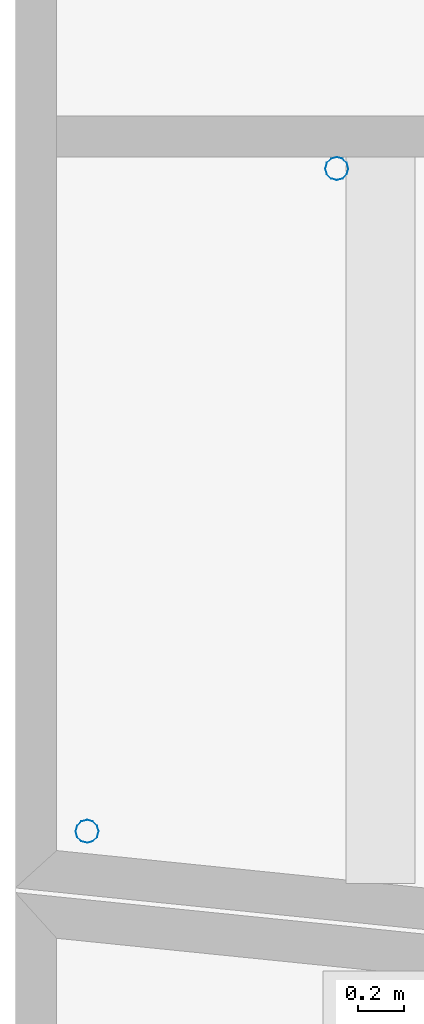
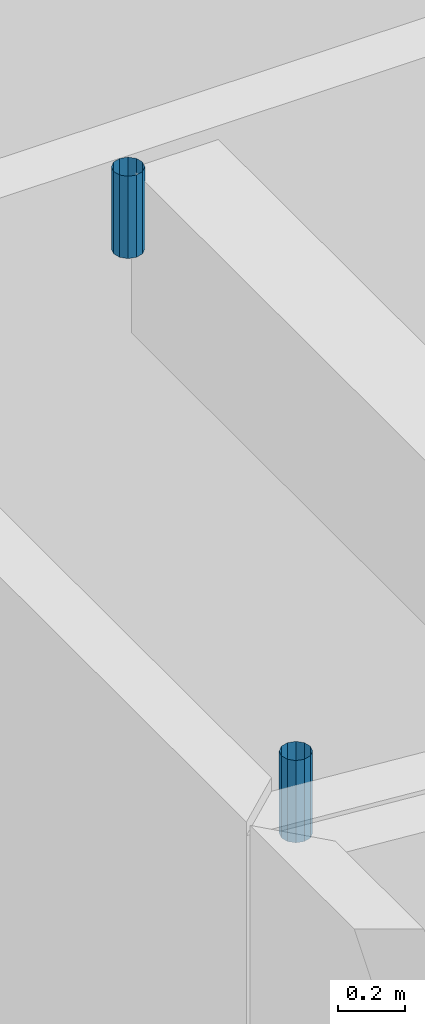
# One storey, part 26 of 41: 2 discrete accessories.
"""IFC2X3 building model written with IfcOpenShell, lengths in millimetres."""

from ifc_helpers import new_model, entity, si_unit, converted_unit, derived_unit, money_unit, direction, frame, origin_with_axes, place, context, subcontext, project, spatial, open_shell, surface_model, source, transform, mapped, type_object, element, save


model = new_model("IFC2X3")

# Units and contexts
model_context = context("Model", 3, precision=0.01, world=origin_with_axes(), true_north=direction((0.0, 1.0)))
body_context = subcontext(model_context, "Body", "Model", "MODEL_VIEW")
ifc_project = project(units=[si_unit("LENGTHUNIT", "METRE", prefix="MILLI"), si_unit("AREAUNIT", "SQUARE_METRE"), si_unit("VOLUMEUNIT", "CUBIC_METRE"), converted_unit("PLANEANGLEUNIT", "DEGREE", entity("IfcPlaneAngleMeasure", 0.0174532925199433), si_unit("PLANEANGLEUNIT", "RADIAN"), dimensions=[0, 0, 0, 0, 0, 0, 0]), money_unit("USD"), converted_unit("TIMEUNIT", "Year", entity("IfcTimeMeasure", 31557600.0), si_unit("TIMEUNIT", "SECOND"), dimensions=[0, 0, 1, 0, 0, 0, 0]), si_unit("MASSUNIT", "GRAM", prefix="KILO"), si_unit("THERMODYNAMICTEMPERATUREUNIT", "DEGREE_CELSIUS"), si_unit("LUMINOUSINTENSITYUNIT", "LUMEN"), si_unit("ENERGYUNIT", "JOULE", prefix="MEGA"), derived_unit("THERMALCONDUCTANCEUNIT", [(si_unit("POWERUNIT", "WATT"), 1), (si_unit("LENGTHUNIT", "METRE"), -1), (si_unit("THERMODYNAMICTEMPERATUREUNIT", "KELVIN"), -1)]), derived_unit("SPECIFICHEATCAPACITYUNIT", [(si_unit("ENERGYUNIT", "JOULE"), 1), (si_unit("MASSUNIT", "GRAM", prefix="KILO"), -1), (si_unit("THERMODYNAMICTEMPERATUREUNIT", "KELVIN"), -1)]), derived_unit("MASSDENSITYUNIT", [(si_unit("MASSUNIT", "GRAM", prefix="KILO"), 1), (si_unit("VOLUMEUNIT", "CUBIC_METRE"), -1)])], contexts=[model_context])

# Site, building, storey
site_placement = place(None, origin_with_axes())
site = spatial("IfcSite", under=ifc_project, at=site_placement, Name="Site", CompositionType="ELEMENT")
building_placement = place(site_placement, origin_with_axes())
building = spatial("IfcBuilding", under=site, at=building_placement, Name="Bâtiment", CompositionType="ELEMENT")
storey_placement = place(building_placement, origin_with_axes())
storey = spatial("IfcBuildingStorey", under=building, at=storey_placement, Name="sousol", CompositionType="ELEMENT", Elevation=0.0)

# Discrete accessories
discrete_accessory_type = type_object("IfcDiscreteAccessoryType", Name="Tuyau descente 27")
shared_shape_1 = source(origin_with_axes(), body_context, "Body", "SurfaceModel", [
    surface_model("IfcShellBasedSurfaceModel", [(-50.0, 0.0, 300.0), (-50.0, 0.0, 0.0), (-43.30127018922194, -25.0, 0.0), (-43.30127018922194, -25.0, 300.0), (-43.30127018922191, 25.00000000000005, 300.0), (-43.30127018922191, 25.00000000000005, 0.0), (-25.00000000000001, -43.30127018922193, 0.0), (-25.00000000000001, -43.30127018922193, 300.0), (-24.99999999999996, 43.30127018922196, 300.0), (-24.99999999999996, 43.30127018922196, 0.0), (0.0, -50.0, 0.0), (0.0, -50.0, 300.0), (0.0, 50.0, 300.0), (0.0, 50.0, 0.0), (24.99999999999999, -43.30127018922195, 0.0), (24.99999999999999, -43.30127018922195, 300.0), (25.00000000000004, 43.30127018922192, 300.0), (25.00000000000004, 43.30127018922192, 0.0), (43.30127018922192, -25.00000000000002, 0.0), (43.30127018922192, -25.00000000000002, 300.0), (43.30127018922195, 24.99999999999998, 300.0), (43.30127018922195, 24.99999999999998, 0.0), (50.0, 0.0, 0.0), (50.0, 0.0, 300.0)], [open_shell([[[0, 1, 2, 3]], [[4, 5, 1, 0]], [[3, 2, 6, 7]], [[8, 9, 5, 4]], [[7, 6, 10, 11]], [[12, 13, 9, 8]], [[11, 10, 14, 15]], [[16, 17, 13, 12]], [[15, 14, 18, 19]], [[20, 21, 17, 16]], [[19, 18, 22, 23]], [[23, 22, 21, 20]]])]),
])
discrete_accessory_1_placement = place(storey_placement, frame((2216947.023107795, -620443.1192585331, 2700.0), z_axis=(0.0, 0.0, 1.0), x_axis=(-1.0, 0.0, 0.0)))
element("IfcDiscreteAccessory", 1, at=discrete_accessory_1_placement, inside=storey, type_object=discrete_accessory_type, Name="Obj.-318", context=body_context, shape_type="MappedRepresentation", body=[
    mapped(shared_shape_1, transform((0.0, 0.0, 0.0))),
])
shared_shape_2 = source(origin_with_axes(), body_context, "Body", "SurfaceModel", [
    surface_model("IfcShellBasedSurfaceModel", [(50.0, 0.0, 300.0), (43.30127018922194, -25.0, 300.0), (43.30127018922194, -25.0, 0.0), (50.0, 0.0, 0.0), (25.00000000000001, -43.30127018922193, 300.0), (25.00000000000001, -43.30127018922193, 0.0), (43.30127018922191, 25.00000000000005, 300.0), (43.30127018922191, 25.00000000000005, 0.0), (0.0, -50.0, 300.0), (0.0, -50.0, 0.0), (24.99999999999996, 43.30127018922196, 300.0), (24.99999999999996, 43.30127018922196, 0.0), (-24.99999999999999, -43.30127018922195, 300.0), (-24.99999999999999, -43.30127018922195, 0.0), (0.0, 50.0, 300.0), (0.0, 50.0, 0.0), (-43.30127018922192, -25.00000000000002, 300.0), (-43.30127018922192, -25.00000000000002, 0.0), (-25.00000000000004, 43.30127018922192, 300.0), (-25.00000000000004, 43.30127018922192, 0.0), (-50.0, 0.0, 300.0), (-50.0, 0.0, 0.0), (-43.30127018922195, 24.99999999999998, 300.0), (-43.30127018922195, 24.99999999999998, 0.0)], [open_shell([[[0, 1, 2, 3]], [[1, 4, 5, 2]], [[6, 0, 3, 7]], [[4, 8, 9, 5]], [[10, 6, 7, 11]], [[8, 12, 13, 9]], [[14, 10, 11, 15]], [[12, 16, 17, 13]], [[18, 14, 15, 19]], [[16, 20, 21, 17]], [[22, 18, 19, 23]], [[20, 22, 23, 21]]])]),
])
discrete_accessory_2_placement = place(storey_placement, frame((2218034.158908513, -617557.5058083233, 2700.0), z_axis=(0.0, 0.0, 1.0), x_axis=(1.0, 0.0, 0.0)))
element("IfcDiscreteAccessory", 2, at=discrete_accessory_2_placement, inside=storey, type_object=discrete_accessory_type, Name="Obj.-318", context=body_context, shape_type="MappedRepresentation", body=[
    mapped(shared_shape_2, transform((0.0, 0.0, 0.0))),
])

save(model, "model.ifc")
